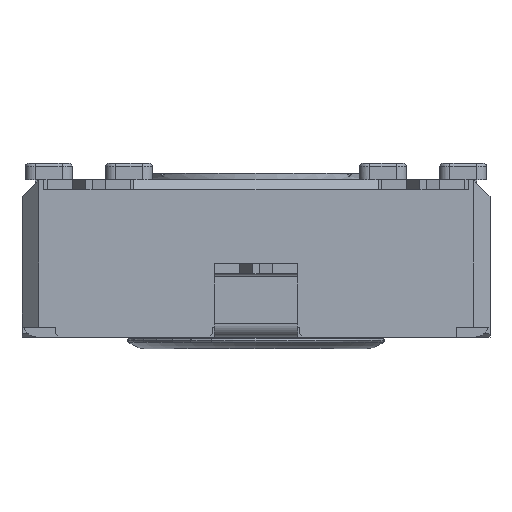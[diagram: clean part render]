
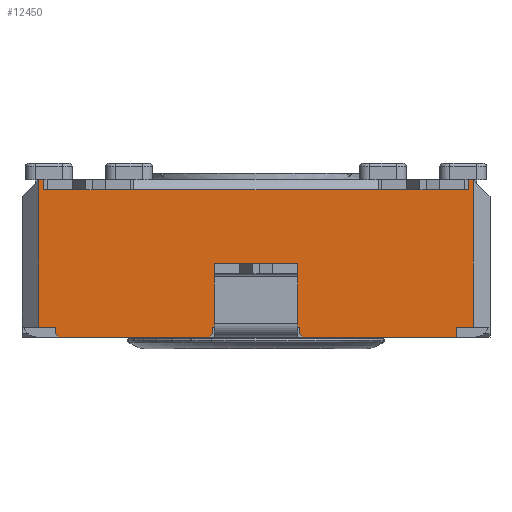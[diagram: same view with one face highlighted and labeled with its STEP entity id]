
A CAD part, front view. The second image highlights one B-rep face of the part: STEP entity #12450.
In plain terms, the highlighted planar face has unit normal (0, -1, 0).
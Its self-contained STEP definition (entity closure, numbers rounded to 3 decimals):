
#334=LINE('',#17735,#1812);
#347=LINE('',#17769,#1825);
#352=LINE('',#17779,#1830);
#430=LINE('',#17938,#1908);
#455=LINE('',#17989,#1933);
#481=LINE('',#18053,#1959);
#482=LINE('',#18055,#1960);
#483=LINE('',#18057,#1961);
#484=LINE('',#18058,#1962);
#485=LINE('',#18060,#1963);
#486=LINE('',#18062,#1964);
#487=LINE('',#18064,#1965);
#488=LINE('',#18066,#1966);
#489=LINE('',#18067,#1967);
#490=LINE('',#18069,#1968);
#491=LINE('',#18071,#1969);
#492=LINE('',#18073,#1970);
#493=LINE('',#18075,#1971);
#494=LINE('',#18077,#1972);
#495=LINE('',#18079,#1973);
#496=LINE('',#18081,#1974);
#497=LINE('',#18083,#1975);
#498=LINE('',#18085,#1976);
#499=LINE('',#18086,#1977);
#500=LINE('',#18088,#1978);
#501=LINE('',#18090,#1979);
#502=LINE('',#18091,#1980);
#1812=VECTOR('',#14212,10.);
#1825=VECTOR('',#14251,10.);
#1830=VECTOR('',#14256,10.);
#1908=VECTOR('',#14358,10.);
#1933=VECTOR('',#14399,10.);
#1959=VECTOR('',#14447,10.);
#1960=VECTOR('',#14448,10.);
#1961=VECTOR('',#14449,10.);
#1962=VECTOR('',#14450,10.);
#1963=VECTOR('',#14451,10.);
#1964=VECTOR('',#14452,10.);
#1965=VECTOR('',#14453,10.);
#1966=VECTOR('',#14454,10.);
#1967=VECTOR('',#14455,10.);
#1968=VECTOR('',#14456,10.);
#1969=VECTOR('',#14457,10.);
#1970=VECTOR('',#14458,10.);
#1971=VECTOR('',#14459,10.);
#1972=VECTOR('',#14460,10.);
#1973=VECTOR('',#14461,10.);
#1974=VECTOR('',#14462,10.);
#1975=VECTOR('',#14463,10.);
#1976=VECTOR('',#14464,10.);
#1977=VECTOR('',#14465,10.);
#1978=VECTOR('',#14466,10.);
#1979=VECTOR('',#14467,10.);
#1980=VECTOR('',#14468,10.);
#3290=FACE_OUTER_BOUND('',#3960,.T.);
#3960=EDGE_LOOP('',(#8291,#8292,#8293,#8294,#8295,#8296,#8297,#8298,#8299,
#8300,#8301,#8302,#8303,#8304,#8305,#8306,#8307,#8308,#8309,#8310,#8311,
#8312,#8313,#8314,#8315,#8316,#8317));
#4951=VERTEX_POINT('',#17713);
#4959=VERTEX_POINT('',#17734);
#4967=VERTEX_POINT('',#17768);
#4971=VERTEX_POINT('',#17776);
#4972=VERTEX_POINT('',#17778);
#5040=VERTEX_POINT('',#17935);
#5041=VERTEX_POINT('',#17937);
#5058=VERTEX_POINT('',#17986);
#5059=VERTEX_POINT('',#17988);
#5086=VERTEX_POINT('',#18052);
#5087=VERTEX_POINT('',#18054);
#5088=VERTEX_POINT('',#18056);
#5089=VERTEX_POINT('',#18059);
#5090=VERTEX_POINT('',#18061);
#5091=VERTEX_POINT('',#18063);
#5092=VERTEX_POINT('',#18065);
#5093=VERTEX_POINT('',#18068);
#5094=VERTEX_POINT('',#18070);
#5095=VERTEX_POINT('',#18072);
#5096=VERTEX_POINT('',#18074);
#5097=VERTEX_POINT('',#18076);
#5098=VERTEX_POINT('',#18078);
#5099=VERTEX_POINT('',#18080);
#5100=VERTEX_POINT('',#18082);
#5101=VERTEX_POINT('',#18084);
#5102=VERTEX_POINT('',#18087);
#5103=VERTEX_POINT('',#18089);
#6174=EDGE_CURVE('',#4951,#4959,#334,.T.);
#6191=EDGE_CURVE('',#4967,#4951,#347,.T.);
#6196=EDGE_CURVE('',#4972,#4971,#352,.T.);
#6275=EDGE_CURVE('',#5041,#5040,#430,.T.);
#6300=EDGE_CURVE('',#5059,#5058,#455,.T.);
#6332=EDGE_CURVE('',#5040,#5086,#481,.T.);
#6333=EDGE_CURVE('',#5086,#5087,#482,.T.);
#6334=EDGE_CURVE('',#5087,#5088,#483,.T.);
#6335=EDGE_CURVE('',#4972,#5088,#484,.T.);
#6336=EDGE_CURVE('',#4971,#5089,#485,.T.);
#6337=EDGE_CURVE('',#5090,#5089,#486,.T.);
#6338=EDGE_CURVE('',#5090,#5091,#487,.T.);
#6339=EDGE_CURVE('',#5092,#5091,#488,.T.);
#6340=EDGE_CURVE('',#4967,#5092,#489,.T.);
#6341=EDGE_CURVE('',#4959,#5093,#490,.T.);
#6342=EDGE_CURVE('',#5093,#5094,#491,.T.);
#6343=EDGE_CURVE('',#5095,#5094,#492,.T.);
#6344=EDGE_CURVE('',#5095,#5096,#493,.T.);
#6345=EDGE_CURVE('',#5096,#5097,#494,.T.);
#6346=EDGE_CURVE('',#5097,#5098,#495,.T.);
#6347=EDGE_CURVE('',#5099,#5098,#496,.T.);
#6348=EDGE_CURVE('',#5099,#5100,#497,.T.);
#6349=EDGE_CURVE('',#5100,#5101,#498,.T.);
#6350=EDGE_CURVE('',#5101,#5059,#499,.T.);
#6351=EDGE_CURVE('',#5058,#5102,#500,.T.);
#6352=EDGE_CURVE('',#5103,#5102,#501,.T.);
#6353=EDGE_CURVE('',#5103,#5041,#502,.T.);
#8291=ORIENTED_EDGE('',*,*,#6275,.T.);
#8292=ORIENTED_EDGE('',*,*,#6332,.T.);
#8293=ORIENTED_EDGE('',*,*,#6333,.T.);
#8294=ORIENTED_EDGE('',*,*,#6334,.T.);
#8295=ORIENTED_EDGE('',*,*,#6335,.F.);
#8296=ORIENTED_EDGE('',*,*,#6196,.T.);
#8297=ORIENTED_EDGE('',*,*,#6336,.T.);
#8298=ORIENTED_EDGE('',*,*,#6337,.F.);
#8299=ORIENTED_EDGE('',*,*,#6338,.T.);
#8300=ORIENTED_EDGE('',*,*,#6339,.F.);
#8301=ORIENTED_EDGE('',*,*,#6340,.F.);
#8302=ORIENTED_EDGE('',*,*,#6191,.T.);
#8303=ORIENTED_EDGE('',*,*,#6174,.T.);
#8304=ORIENTED_EDGE('',*,*,#6341,.T.);
#8305=ORIENTED_EDGE('',*,*,#6342,.T.);
#8306=ORIENTED_EDGE('',*,*,#6343,.F.);
#8307=ORIENTED_EDGE('',*,*,#6344,.T.);
#8308=ORIENTED_EDGE('',*,*,#6345,.T.);
#8309=ORIENTED_EDGE('',*,*,#6346,.T.);
#8310=ORIENTED_EDGE('',*,*,#6347,.F.);
#8311=ORIENTED_EDGE('',*,*,#6348,.T.);
#8312=ORIENTED_EDGE('',*,*,#6349,.T.);
#8313=ORIENTED_EDGE('',*,*,#6350,.T.);
#8314=ORIENTED_EDGE('',*,*,#6300,.T.);
#8315=ORIENTED_EDGE('',*,*,#6351,.T.);
#8316=ORIENTED_EDGE('',*,*,#6352,.F.);
#8317=ORIENTED_EDGE('',*,*,#6353,.T.);
#11737=PLANE('',#13159);
#12450=ADVANCED_FACE('',(#3290),#11737,.T.);
#13159=AXIS2_PLACEMENT_3D('',#18051,#14445,#14446);
#14212=DIRECTION('',(1.,0.,0.));
#14251=DIRECTION('',(1.,0.,0.));
#14256=DIRECTION('',(1.,0.,0.));
#14358=DIRECTION('',(-1.,0.,0.));
#14399=DIRECTION('',(-1.,0.,0.));
#14445=DIRECTION('center_axis',(0.,-1.,0.));
#14446=DIRECTION('ref_axis',(0.,0.,-1.));
#14447=DIRECTION('',(-1.,0.,0.));
#14448=DIRECTION('',(0.,0.,1.));
#14449=DIRECTION('',(-1.,0.,0.));
#14450=DIRECTION('',(0.,0.,1.));
#14451=DIRECTION('',(0.,0.,-1.));
#14452=DIRECTION('',(-0.707,0.,0.707));
#14453=DIRECTION('',(1.,0.,0.));
#14454=DIRECTION('',(-0.707,0.,-0.707));
#14455=DIRECTION('',(0.,0.,-1.));
#14456=DIRECTION('',(1.,0.,0.));
#14457=DIRECTION('',(0.,0.,-1.));
#14458=DIRECTION('',(-0.707,0.,0.707));
#14459=DIRECTION('',(1.,0.,0.));
#14460=DIRECTION('',(0.,0.,1.));
#14461=DIRECTION('',(1.,0.,0.));
#14462=DIRECTION('',(0.,0.,-1.));
#14463=DIRECTION('',(-1.,0.,0.));
#14464=DIRECTION('',(0.,0.,-1.));
#14465=DIRECTION('',(-1.,0.,0.));
#14466=DIRECTION('',(-1.,0.,0.));
#14467=DIRECTION('',(1.,0.,0.));
#14468=DIRECTION('',(-1.,0.,0.));
#17713=CARTESIAN_POINT('',(-8.717,-9.898,0.));
#17734=CARTESIAN_POINT('',(-6.217,-9.898,0.));
#17735=CARTESIAN_POINT('',(-14.467,-9.898,0.));
#17768=CARTESIAN_POINT('',(-8.767,-9.898,0.));
#17769=CARTESIAN_POINT('',(-14.467,-9.898,0.));
#17776=CARTESIAN_POINT('',(-13.467,-9.898,0.));
#17778=CARTESIAN_POINT('',(-13.967,-9.898,0.));
#17779=CARTESIAN_POINT('',(-7.245,-9.898,0.));
#17935=CARTESIAN_POINT('',(-13.717,-9.898,4.1));
#17937=CARTESIAN_POINT('',(-11.217,-9.898,4.1));
#17938=CARTESIAN_POINT('',(-6.467,-9.898,4.1));
#17986=CARTESIAN_POINT('',(-3.717,-9.898,4.1));
#17988=CARTESIAN_POINT('',(-1.217,-9.898,4.1));
#17989=CARTESIAN_POINT('',(-1.467,-9.898,4.1));
#18051=CARTESIAN_POINT('Origin',(-0.467,-9.898,0.));
#18052=CARTESIAN_POINT('',(-13.817,-9.898,4.1));
#18053=CARTESIAN_POINT('',(-3.944,-9.898,4.1));
#18054=CARTESIAN_POINT('',(-13.817,-9.898,4.4));
#18055=CARTESIAN_POINT('',(-13.817,-9.898,2.2));
#18056=CARTESIAN_POINT('',(-13.967,-9.898,4.4));
#18057=CARTESIAN_POINT('',(-14.467,-9.898,4.4));
#18058=CARTESIAN_POINT('',(-13.967,-9.898,0.));
#18059=CARTESIAN_POINT('',(-13.467,-9.898,-0.2));
#18060=CARTESIAN_POINT('',(-13.467,-9.898,-0.15));
#18061=CARTESIAN_POINT('',(-13.367,-9.898,-0.3));
#18062=CARTESIAN_POINT('',(-10.242,-9.898,-3.425));
#18063=CARTESIAN_POINT('',(-8.867,-9.898,-0.3));
#18064=CARTESIAN_POINT('',(-0.467,-9.898,-0.3));
#18065=CARTESIAN_POINT('',(-8.767,-9.898,-0.2));
#18066=CARTESIAN_POINT('',(-6.667,-9.898,1.9));
#18067=CARTESIAN_POINT('',(-8.767,-9.898,0.));
#18068=CARTESIAN_POINT('',(-6.167,-9.898,0.));
#18069=CARTESIAN_POINT('',(-14.467,-9.898,0.));
#18070=CARTESIAN_POINT('',(-6.167,-9.898,-0.2));
#18071=CARTESIAN_POINT('',(-6.167,-9.898,0.));
#18072=CARTESIAN_POINT('',(-6.067,-9.898,-0.3));
#18073=CARTESIAN_POINT('',(-4.767,-9.898,-1.6));
#18074=CARTESIAN_POINT('',(-1.467,-9.898,-0.3));
#18075=CARTESIAN_POINT('',(-0.467,-9.898,-0.3));
#18076=CARTESIAN_POINT('',(-1.467,-9.898,0.));
#18077=CARTESIAN_POINT('',(-1.467,-9.898,-0.15));
#18078=CARTESIAN_POINT('',(-0.967,-9.898,0.));
#18079=CARTESIAN_POINT('',(-0.646,-9.898,0.));
#18080=CARTESIAN_POINT('',(-0.967,-9.898,4.4));
#18081=CARTESIAN_POINT('',(-0.967,-9.898,0.));
#18082=CARTESIAN_POINT('',(-1.117,-9.898,4.4));
#18083=CARTESIAN_POINT('',(-14.467,-9.898,4.4));
#18084=CARTESIAN_POINT('',(-1.117,-9.898,4.1));
#18085=CARTESIAN_POINT('',(-1.117,-9.898,2.2));
#18086=CARTESIAN_POINT('',(-1.862,-9.898,4.1));
#18087=CARTESIAN_POINT('',(-3.817,-9.898,4.1));
#18088=CARTESIAN_POINT('',(-1.862,-9.898,4.1));
#18089=CARTESIAN_POINT('',(-11.117,-9.898,4.1));
#18090=CARTESIAN_POINT('',(-3.967,-9.898,4.1));
#18091=CARTESIAN_POINT('',(-3.944,-9.898,4.1));
